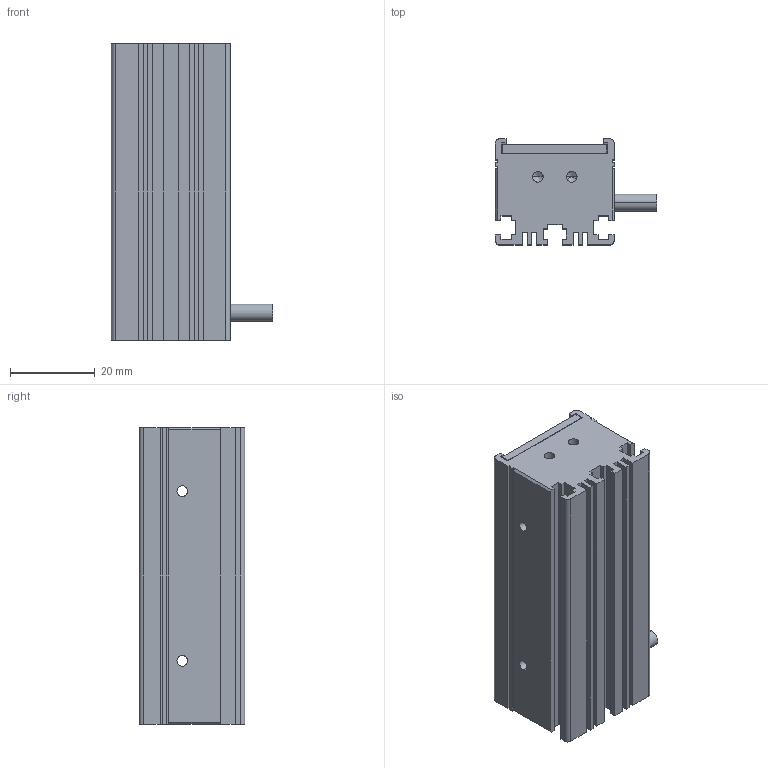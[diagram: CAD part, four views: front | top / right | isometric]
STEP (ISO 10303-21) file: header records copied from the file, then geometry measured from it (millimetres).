
FILE_DESCRIPTION (( 'STEP AP203' ), '1' );
FILE_NAME ('GTR7028-W.STEP', '2022-08-26T02:34:20', ( 'Windows User' ), ( 'P R C' ), 'SwSTEP 2.0', 'SolidWorks 2016', '' );
FILE_SCHEMA (( 'CONFIG_CONTROL_DESIGN' ));
Length unit declared in the file: millimetre
Products named in the file (1): GTR7028-W
Bounding box: 38 x 25 x 70 mm (x, y, z)
Volume: 26383.6 mm3; surface area: 20285.9 mm2
Topology: 2 solids, 2 shells, 290 faces, 744 edges, 488 vertices
Faces by surface type: plane 260, cylinder 22, cone 8
Entity records: 8671 total; most frequent: CARTESIAN_POINT 1515, ORIENTED_EDGE 1472, DIRECTION 1362, EDGE_CURVE 736, LINE 692, VECTOR 692, VERTEX_POINT 488, EDGE_LOOP 336
